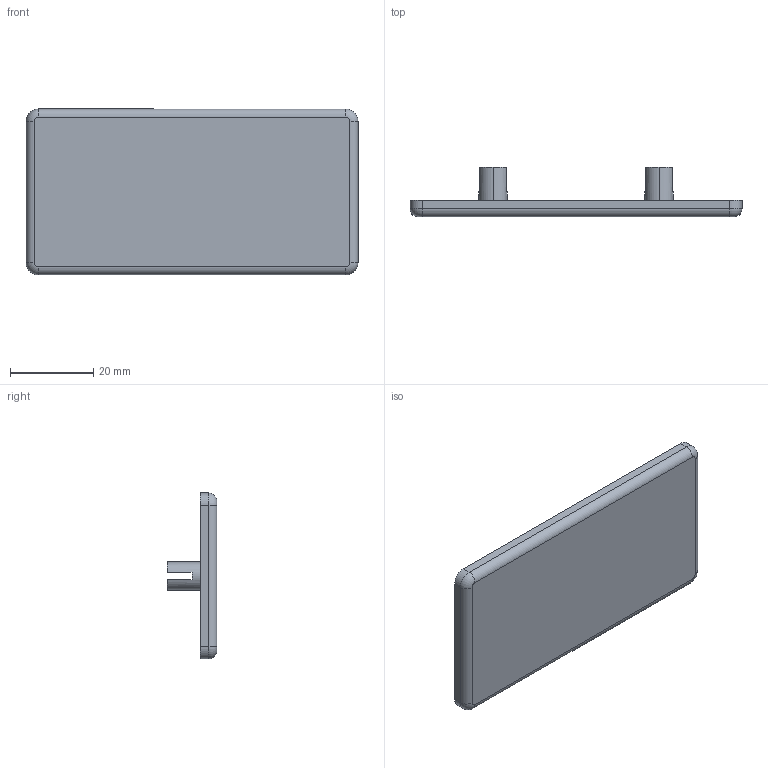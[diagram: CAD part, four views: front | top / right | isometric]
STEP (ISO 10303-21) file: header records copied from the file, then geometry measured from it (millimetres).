
FILE_DESCRIPTION (( 'STEP AP203' ), '1' );
FILE_NAME ('EC40X80.STEP', '2018-03-15T12:38:37', ( '' ), ( '' ), 'SwSTEP 2.0', 'SolidWorks 2013', '' );
FILE_SCHEMA (( 'CONFIG_CONTROL_DESIGN' ));
Length unit declared in the file: millimetre
Products named in the file (1): EC40X80
Bounding box: 80 x 12 x 40 mm (x, y, z)
Volume: 7549.2 mm3; surface area: 8274 mm2
Topology: 1 solids, 1 shells, 53 faces, 132 edges, 84 vertices
Faces by surface type: plane 29, cylinder 16, cone 4, torus 4
Entity records: 1663 total; most frequent: DIRECTION 296, CARTESIAN_POINT 270, ORIENTED_EDGE 264, EDGE_CURVE 132, AXIS2_PLACEMENT_3D 110, VERTEX_POINT 84, VECTOR 76, LINE 76
